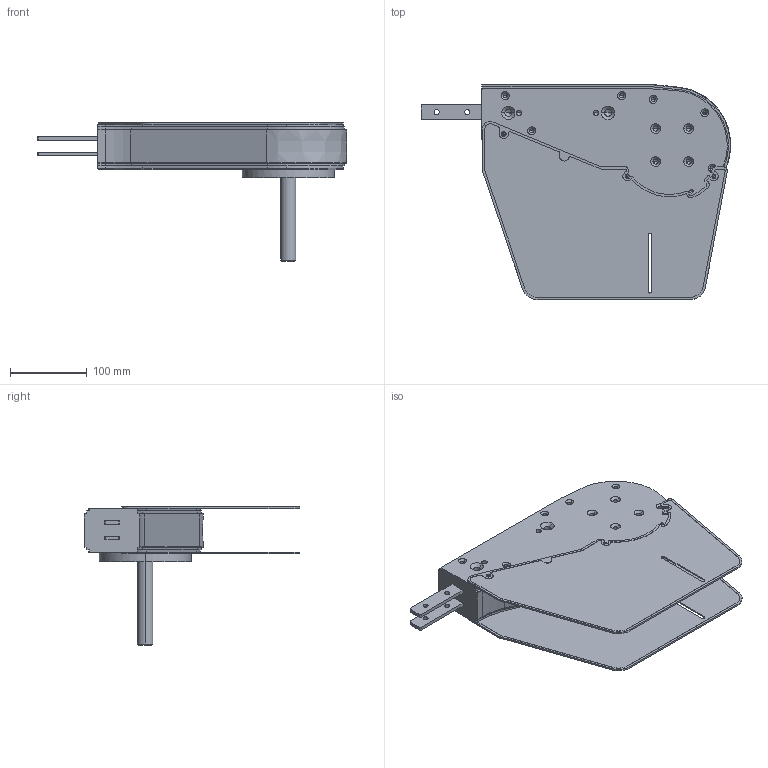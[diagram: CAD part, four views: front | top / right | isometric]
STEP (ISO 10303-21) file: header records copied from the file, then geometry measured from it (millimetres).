
FILE_DESCRIPTION (( 'STEP AP214' ), '1' );
FILE_NAME ('FKDD 320 0L.step', '2017-04-07T11:06:58', ( '' ), ( '' ), 'SwSTEP 2.0', 'SolidWorks 2016', '' );
FILE_SCHEMA (( 'AUTOMOTIVE_DESIGN' ));
Length unit declared in the file: millimetre
Products named in the file (1): FKDD 320 0L
Bounding box: 403.49 x 280.6 x 180.4 mm (x, y, z)
Volume: 2363513.7 mm3; surface area: 354690.3 mm2
Topology: 3 solids, 3 shells, 598 faces, 1575 edges, 960 vertices
Faces by surface type: cylinder 285, plane 170, cone 138, bspline 3, torus 2
Entity records: 20954 total; most frequent: CARTESIAN_POINT 3367, DIRECTION 3327, ORIENTED_EDGE 2998, EDGE_CURVE 1499, AXIS2_PLACEMENT_3D 1240, VERTEX_POINT 960, VECTOR 847, LINE 847
